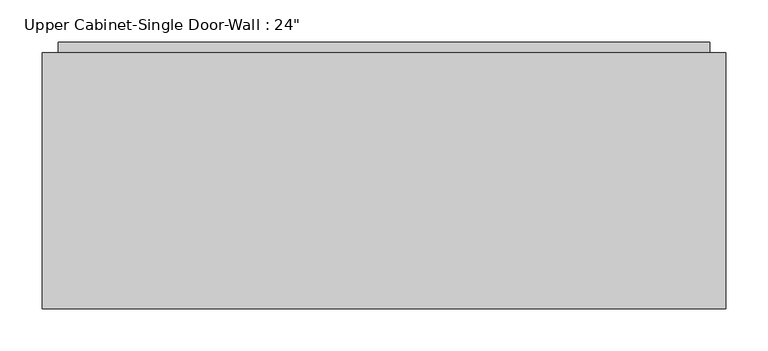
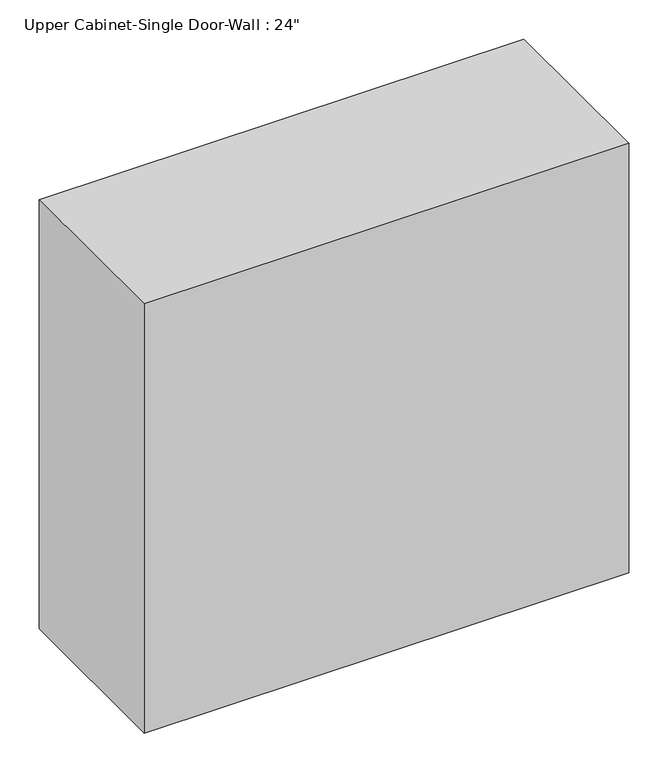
"""IFC4 building model written with IfcOpenShell, lengths in millimetres: furniture geometry."""

import ifcopenshell
import ifcopenshell.guid

model = None  # the IFC model being written
_history = None  # IfcOwnerHistory: only IFC2X3 demands one
_inside = {}  # id of a spatial element -> (the spatial element, [elements in it])
_under = {}  # id of a project, library or spatial element -> (it, [spatial elements below it])
_declared = {}  # id of a project -> (the project, [libraries it declares])
_typed = {}  # id of a type object -> (the type object, [elements of that type])
_made_of = {}  # id of a material, layer set ... -> (it, [elements and type objects made of it])


def new_model(schema):
    """Start an empty IFC model of exactly this schema.

    Asked for "IFC4X3", IfcOpenShell would pick the latest addendum, in which some entities
    have other attributes; the version numbers below select the first issue.
    IFC2X3 requires an IfcOwnerHistory on every rooted entity: one is made here for all.
    """
    global model, _history
    if schema == "IFC4X3":
        model = ifcopenshell.file(schema_version=(4, 3, 0, 0))
    else:
        model = ifcopenshell.file(schema=schema)
    _inside.clear()
    _under.clear()
    _declared.clear()
    _typed.clear()
    _made_of.clear()
    _history = None
    if model.schema == "IFC2X3":
        org = make("IfcOrganization", Name="unknown")
        user = make(
            "IfcPersonAndOrganization",
            ThePerson=make("IfcPerson", FamilyName="unknown"),
            TheOrganization=org,
        )
        app = make(
            "IfcApplication",
            ApplicationDeveloper=org,
            Version="unknown",
            ApplicationFullName="unknown",
            ApplicationIdentifier="unknown",
        )
        _history = make(
            "IfcOwnerHistory",
            OwningUser=user,
            OwningApplication=app,
            ChangeAction="ADDED",
            CreationDate=0,
        )
    return model


def make(cls, **values):
    """One entity of the class cls with the attributes given. An attribute that is None is left unset."""
    return model.create_entity(
        cls, **{name: value for name, value in values.items() if value is not None}
    )


def rooted(cls, **values):
    """An entity with a GlobalId (a new one), such as an element, a storey or a relation."""
    return make(cls, GlobalId=ifcopenshell.guid.new(), OwnerHistory=_history, **values)


def si_unit(unit_type, name, prefix=None):
    """IfcSIUnit, for example si_unit("LENGTHUNIT", "METRE", prefix="MILLI")."""
    return make("IfcSIUnit", UnitType=unit_type, Prefix=prefix, Name=name)


def assignment(units):
    """IfcUnitAssignment: the units of a project."""
    return None if units is None else make("IfcUnitAssignment", Units=units)


def point(xyz):
    """IfcCartesianPoint."""
    return None if xyz is None else make("IfcCartesianPoint", Coordinates=xyz)


def direction(xyz):
    """IfcDirection."""
    return None if xyz is None else make("IfcDirection", DirectionRatios=xyz)


def frame(location, z_axis=None, x_axis=None):
    """IfcAxis2Placement3D, a coordinate frame: its origin and axes. An axis left out is left unset."""
    return make(
        "IfcAxis2Placement3D",
        Location=point(location),
        Axis=direction(z_axis),
        RefDirection=direction(x_axis),
    )


def origin():
    """The frame at (0, 0, 0) with its axes left unset."""
    return frame((0.0, 0.0, 0.0))


def place(relative_to, where):
    """IfcLocalPlacement: puts the frame where relative to a parent placement (None: the world)."""
    return make(
        "IfcLocalPlacement", PlacementRelTo=relative_to, RelativePlacement=where
    )


def context(
    kind, dimensions, precision=None, world=None, true_north=None, identifier=None
):
    """IfcGeometricRepresentationContext, for example the 3D "Model" context."""
    return make(
        "IfcGeometricRepresentationContext",
        ContextIdentifier=identifier,
        ContextType=kind,
        CoordinateSpaceDimension=dimensions,
        Precision=precision,
        WorldCoordinateSystem=world,
        TrueNorth=true_north,
    )


def project(units=None, contexts=None):
    """IfcProject with its units and contexts."""
    return rooted(
        "IfcProject",
        Name="project",
        RepresentationContexts=contexts,
        UnitsInContext=assignment(units),
    )


def spatial(cls, under=None, at=None, **own):
    """A site, building, storey or space (cls), placed at a placement, below another one or the project."""
    s = rooted(cls, ObjectPlacement=at, **own)
    if under is not None:
        _under.setdefault(under.id(), (under, []))[1].append(s)
    return s


def polyline(points):
    """IfcPolyline through the points."""
    return make("IfcPolyline", Points=[point(p) for p in points])


def outline(outer, holes=None, kind="AREA"):
    """IfcArbitraryClosedProfileDef: a profile drawn as a closed curve; with holes, ...WithVoids."""
    if holes is None:
        return make("IfcArbitraryClosedProfileDef", ProfileType=kind, OuterCurve=outer)
    return make(
        "IfcArbitraryProfileDefWithVoids",
        ProfileType=kind,
        OuterCurve=outer,
        InnerCurves=holes,
    )


def extrude(swept, where, along, depth):
    """IfcExtrudedAreaSolid: the profile swept, set in the frame where, extruded along a direction by depth."""
    return make(
        "IfcExtrudedAreaSolid",
        SweptArea=swept,
        Position=where,
        ExtrudedDirection=direction(along),
        Depth=depth,
    )


def faces_of(points, faces, orient=None, outer=None):
    """IfcFace entities. A face is a list of loops; a loop is a list of indices into points, from 0.

    orient and outer hold one flag for each loop. By default every Orientation is true, the
    first loop of a face is its IfcFaceOuterBound and the others are IfcFaceBound.
    """
    made = []
    for i, loops in enumerate(faces):
        bounds = []
        for j, loop in enumerate(loops):
            is_outer = j == 0 if outer is None else outer[i][j]
            bounds.append(
                make(
                    "IfcFaceOuterBound" if is_outer else "IfcFaceBound",
                    Bound=make("IfcPolyLoop", Polygon=[points[k] for k in loop]),
                    Orientation=True if orient is None else orient[i][j],
                )
            )
        made.append(make("IfcFace", Bounds=bounds))
    return made


def faceted_brep(points, faces, orient=None, outer=None, voids=None):
    """IfcFacetedBrep: a solid bounded by flat faces; with voids (closed shells), ...WithVoids."""
    shared = [point(p) for p in points]
    hull = make("IfcClosedShell", CfsFaces=faces_of(shared, faces, orient, outer))
    if voids is None:
        return make("IfcFacetedBrep", Outer=hull)
    return make(
        "IfcFacetedBrepWithVoids",
        Outer=hull,
        Voids=[
            make(cls, CfsFaces=faces_of(shared, fs, o, b)) for cls, fs, o, b in voids
        ],
    )


def shape(context_of_items, identifier, shape_type, items):
    """IfcShapeRepresentation: the items that make up one representation, for example the "Body"."""
    return make(
        "IfcShapeRepresentation",
        ContextOfItems=context_of_items,
        RepresentationIdentifier=identifier,
        RepresentationType=shape_type,
        Items=items,
    )


def source(mapping_origin, context_of_items, identifier, shape_type, items):
    """IfcRepresentationMap: a shape defined once, which mapped items show again and again."""
    return make(
        "IfcRepresentationMap",
        MappingOrigin=mapping_origin,
        MappedRepresentation=shape(context_of_items, identifier, shape_type, items),
    )


def transform(
    local_origin,
    x_axis=None,
    y_axis=None,
    z_axis=None,
    scale=None,
    scale2=None,
    scale3=None,
    uniform=True,
):
    """IfcCartesianTransformationOperator3D, or its non-uniform kind. x_axis, y_axis, z_axis: its Axis1, 2, 3."""
    if uniform:
        return make(
            "IfcCartesianTransformationOperator3D",
            Axis1=direction(x_axis),
            Axis2=direction(y_axis),
            LocalOrigin=point(local_origin),
            Scale=scale,
            Axis3=direction(z_axis),
        )
    return make(
        "IfcCartesianTransformationOperator3DnonUniform",
        Axis1=direction(x_axis),
        Axis2=direction(y_axis),
        LocalOrigin=point(local_origin),
        Scale=scale,
        Axis3=direction(z_axis),
        Scale2=scale2,
        Scale3=scale3,
    )


def mapped(mapping_source, mapping_target):
    """IfcMappedItem: shows the shape of a source again, moved by a transform."""
    return make(
        "IfcMappedItem", MappingSource=mapping_source, MappingTarget=mapping_target
    )


def made_of(thing, what):
    """Note that an element or type object is made of a material, layer set ...; save() writes the relation."""
    if what is not None:
        _made_of.setdefault(what.id(), (what, []))[1].append(thing)
    return thing


def element(
    cls,
    number,
    at=None,
    inside=None,
    cuts=None,
    type_object=None,
    material=None,
    context=None,
    identifier="Body",
    shape_type=None,
    held_by="IfcProductDefinitionShape",
    body=None,
    shapes=None,
    **own,
):
    """One element of the class cls, such as IfcWall. Its Tag is "e" and its number.

    at: its placement. inside: the storey or other place that contains it. cuts: it is an
    opening in that element (IfcRelVoidsElement). A single representation is given by context,
    identifier, shape_type and body (its items); several are given by shapes. held_by: the class
    of the entity that holds the representations. save() writes the other relations.
    """
    e = rooted(cls, Tag="e%d" % number, ObjectPlacement=at, **own)
    if body is not None:
        shapes = [shape(context, identifier, shape_type, body)]
    if shapes is not None:
        e.Representation = make(held_by, Representations=shapes)
    if inside is not None:
        _inside.setdefault(inside.id(), (inside, []))[1].append(e)
    if cuts is not None:
        rooted(
            "IfcRelVoidsElement", RelatingBuildingElement=cuts, RelatedOpeningElement=e
        )
    if type_object is not None:
        _typed.setdefault(type_object.id(), (type_object, []))[1].append(e)
    return made_of(e, material)


def aggregate(whole, parts):
    """IfcRelAggregates: a whole, such as a stair, and the parts it consists of."""
    return rooted("IfcRelAggregates", RelatingObject=whole, RelatedObjects=parts)


def save(model, path):
    """Write the relations noted so far, then the file.

    IfcRelAggregates (storeys below a building ...), IfcRelContainedInSpatialStructure (elements
    in a storey), IfcRelDefinesByType, IfcRelAssociatesMaterial and IfcRelDeclares: one each for
    every whole, place, type object, material and project.
    """
    for whole, parts in _under.values():
        aggregate(whole, parts)
    for where, things in _inside.values():
        rooted(
            "IfcRelContainedInSpatialStructure",
            RelatedElements=things,
            RelatingStructure=where,
        )
    for kind, things in _typed.values():
        rooted("IfcRelDefinesByType", RelatedObjects=things, RelatingType=kind)
    for what, things in _made_of.values():
        rooted("IfcRelAssociatesMaterial", RelatedObjects=things, RelatingMaterial=what)
    for by, libraries in _declared.values():
        rooted("IfcRelDeclares", RelatingContext=by, RelatedDefinitions=libraries)
    model.write(path)


def furniture_4ad73428(model_context):
    return source(origin(), model_context, "Body", "SolidModel", [
        faceted_brep([(-555.5096361, 82.55, 2133.6), (-555.5096361, 82.55, 1371.6), (258.3711628, 82.55, 1371.6), (258.3711628, 82.55, 2133.6), (-555.5096361, 387.35, 2133.6), (258.3711628, 387.35, 2133.6), (258.3711628, 387.35, 1371.6), (-555.5096361, 387.35, 1371.6), (-536.4596361, 387.35, 2114.55), (-536.4596361, 387.35, 1390.65), (239.3211628, 387.35, 1390.65), (239.3211628, 387.35, 2114.55), (239.3211628, 101.6, 2114.55), (-536.4596361, 101.6, 2114.55), (239.3211628, 101.6, 1390.65), (-536.4596361, 101.6, 1390.65)], [[[0, 1, 2, 3]], [[4, 5, 6, 7], [8, 9, 10, 11]], [[1, 0, 4, 7]], [[2, 1, 7, 6]], [[3, 2, 6, 5]], [[0, 3, 5, 4]], [[8, 11, 12, 13]], [[11, 10, 14, 12]], [[10, 9, 15, 14]], [[9, 8, 13, 15]], [[13, 12, 14, 15]]]),
        extrude(outline(polyline([(-536.4596361, 400.05), (239.3211628, 400.05), (239.3211628, 368.3), (-536.4596361, 368.3), (-536.4596361, 400.05)])), frame((0.0, 0.0, 1390.65), z_axis=(0.0, 0.0, 1.0), x_axis=(1.0, 0.0, 0.0)), (0.0, 0.0, 1.0), 723.9),
    ])


if __name__ == "__main__":
    model = new_model("IFC4")
    model_context = context("Model", 3, world=origin())
    ifc_project = project(units=[si_unit("LENGTHUNIT", "METRE", prefix="MILLI")], contexts=[model_context])
    site = spatial("IfcSite", under=ifc_project)
    building = spatial("IfcBuilding", under=site)
    placement = place(None, origin())
    furniture_shape = furniture_4ad73428(model_context)
    element("IfcFurniture", 1, ObjectType="Upper Cabinet-Single Door-Wall : 24\"", at=placement, inside=building, context=model_context, shape_type="MappedRepresentation", body=[
        mapped(furniture_shape, transform((0.0, 0.0, 0.0), x_axis=(1.0, 0.0, 0.0), y_axis=(0.0, 1.0, 0.0), z_axis=(0.0, 0.0, 1.0))),
    ])
    save(model, "model.ifc")
